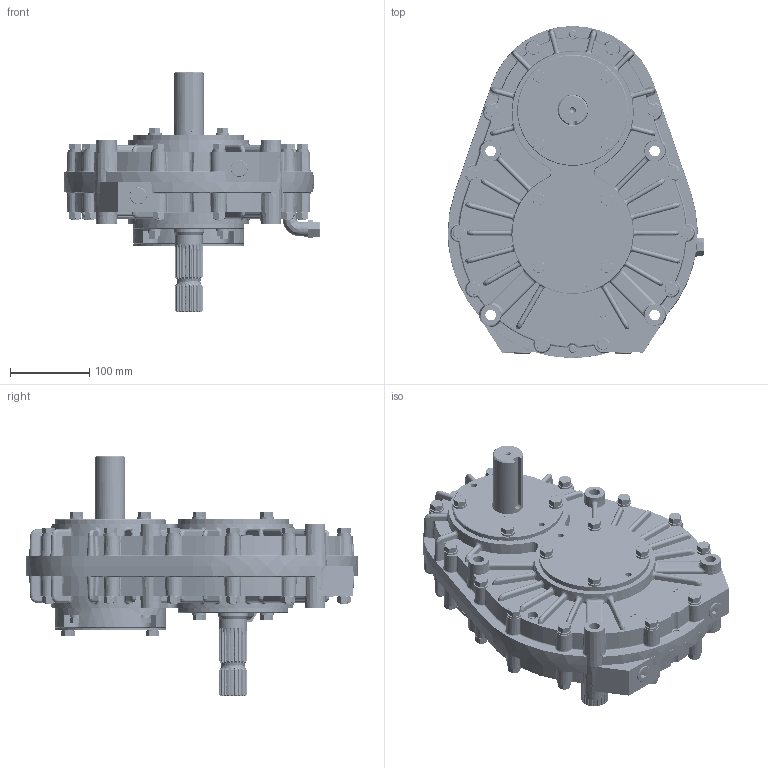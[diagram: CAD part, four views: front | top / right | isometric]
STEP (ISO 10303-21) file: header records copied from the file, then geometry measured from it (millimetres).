
FILE_DESCRIPTION (( 'STEP AP214' ), '1' );
FILE_NAME ('D101A300001.STEP', '2017-04-07T12:38:12', ( 'MikeMihajlovic' ), ( 'Microsoft' ), 'SwSTEP 2.0', 'SolidWorks 2016', '' );
FILE_SCHEMA (( 'AUTOMOTIVE_DESIGN' ));
Length unit declared in the file: inch
Products named in the file (27): LWZ_38_28; OS1_500X2_000-1_5; D101C003_1; D101106_3; SH1252594_11; D101145; D101018_11; D101105; HNZ.38-16_HNZ .38-16; D101A013; PPPI_38NPT_5; D101B003_3; HHCSZ_38-16X3_50_7; DWL_38X1_00_13; DS90081A106_36; D101B001_ASM_1; NP266409-1; RD101001_AF8; PPSKG_50-14_7; D101B001_ASM; AV1637037806; RB_38X_25NPT; D101A300001; STEL_38NPT90_2; HHCSZ_38-16X_50; D101009; HHCSZ_38-16X1_00_9
Assembly tree (97 placements, depth 3):
  D101A300001
    D101B001_ASM_1  x2
      D101B001_ASM
      RD101001_AF8
    DWL_38X1_00_13  x2
    D101B003_3
    D101A013
    D101105
    D101018_11
    D101145
    SH1252594_11  x2
    D101106_3
    D101C003_1
    OS1_500X2_000-1_5  x2
    LWZ_38_28  x28
    HHCSZ_38-16X1_00_9  x16
    D101009
    HHCSZ_38-16X_50  x2
    STEL_38NPT90_2
    RB_38X_25NPT
    AV1637037806
    PPSKG_50-14_7  x2
    NP266409-1
    DS90081A106_36  x2
    HHCSZ_38-16X3_50_7  x12
    PPPI_38NPT_5
    HNZ.38-16_HNZ .38-16  x12
Bounding box: 322.93 x 417.78 x 301.45 mm (x, y, z)
Volume: 3021777.6 mm3; surface area: 1114466.3 mm2
Topology: 59 solids, 161 shells, 4089 faces, 10452 edges, 6621 vertices
Faces by surface type: plane 1669, cylinder 921, cone 803, bspline 696
Entity records: 110426 total; most frequent: CARTESIAN_POINT 55250, ORIENTED_EDGE 11792, DIRECTION 10174, EDGE_CURVE 5958, VERTEX_POINT 3867, AXIS2_PLACEMENT_3D 3473, LINE 3228, VECTOR 3228
